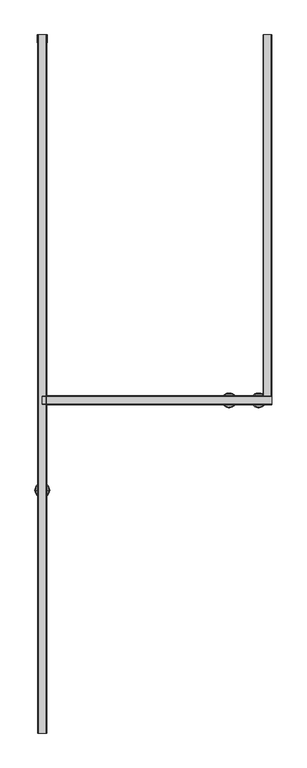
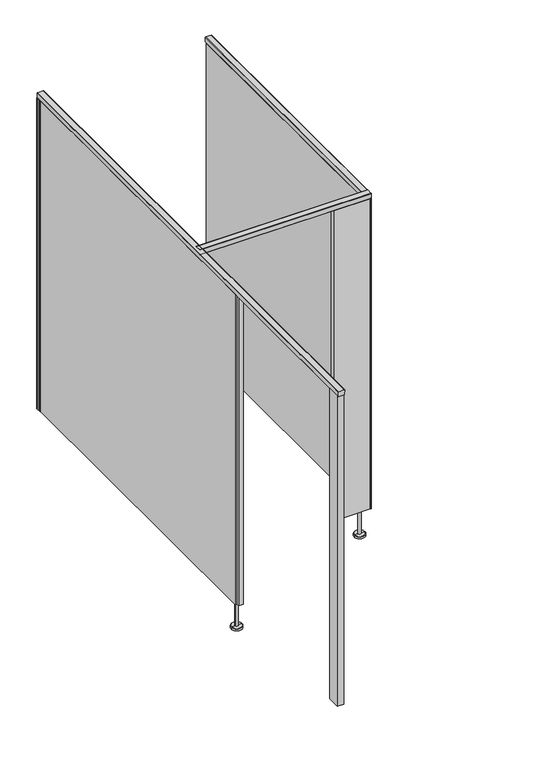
"""IFC4 building model written with IfcOpenShell, lengths in millimetres: proxy geometry, Partition_EuroStyle-Bradley_Corp-ADA_Alcove_1StandardStall-LOFT : Partition_EuroStyle-Bradley_Corp-ADA_Alcove_1StandardStall-LOFT."""

from ifc_helpers import new_model, si_unit, point, frame, frame_2d, origin, place, context, project, spatial, polyline, circle_curve, trimmed, segment, composite_curve, outline, extrude, source, transform, mapped, element, save
from ifc_brep_helpers import plane_surface, cylinder_surface, revolved_surface, advanced_brep


def specialty_equipment_5ce4a985(model_context):
    return source(origin(), model_context, "Body", "SolidModel", [
        extrude(outline(polyline([(1549.4, -2936.400072), (1549.4, -2862.4032348), (1585.4203251, -2862.4032348), (1585.4203251, -2936.400072), (1549.4, -2936.400072)])), frame((0.0, 0.0, 150.0), z_axis=(0.0, 0.0, 1.0), x_axis=(1.0, 0.0, 0.0)), (0.0, 0.0, 1.0), 1855.0),
        extrude(outline(composite_curve([segment(polyline([(1546.918717, -32.5000002), (1546.4103779, -2.02918)]), True, "CONTINUOUS"), segment(trimmed(circle_curve(frame_2d((1548.4395579, -2.02918)), 2.02918), [point((1546.4103779, -2.02918))], [point((1548.4395579, 0.0))], False, "CARTESIAN"), True, "CONTINUOUS"), segment(polyline([(1548.4395579, 0.0), (1586.3807672, 0.0)]), True, "CONTINUOUS"), segment(trimmed(circle_curve(frame_2d((1586.3807672, -2.02918)), 2.02918), [point((1586.3807672, 0.0))], [point((1588.4099473, -2.02918))], False, "CARTESIAN"), True, "CONTINUOUS"), segment(polyline([(1588.4099473, -2.02918), (1587.9016081, -32.5000002), (1586.4030225, -32.5000002)]), True, "CONTINUOUS"), segment(trimmed(circle_curve(frame_2d((1586.4065899, -31.5009082)), 0.9990984), [point((1586.4030225, -32.5000002))], [point((1585.9329373, -30.6212202))], False, "CARTESIAN"), True, "CONTINUOUS"), segment(polyline([(1585.9329373, -30.6212202), (1586.0540473, -23.3575702)]), True, "CONTINUOUS"), segment(trimmed(circle_curve(frame_2d((1586.5715932, -22.5000551)), 1.0015917), [point((1586.0540473, -23.3575702))], [point((1586.0824961, -21.6260013))], False, "CARTESIAN"), True, "CONTINUOUS"), segment(polyline([(1586.0824961, -21.6260013), (1586.3765475, -4.0)]), True, "CONTINUOUS"), segment(trimmed(circle_curve(frame_2d((1584.3768528, -3.9990939)), 1.9996948), [point((1586.3765475, -4.0))], [point((1584.3278332, -2.0))], True, "CARTESIAN"), True, "CONTINUOUS"), segment(polyline([(1584.3278332, -2.0), (1550.4435342, -2.0)]), True, "CONTINUOUS"), segment(trimmed(circle_curve(frame_2d((1550.4435342, -4.0002204)), 2.0002204), [point((1550.4435342, -2.0))], [point((1548.4433424, -3.9895469))], True, "CARTESIAN"), True, "CONTINUOUS"), segment(polyline([(1548.4433424, -3.9895469), (1548.7373979, -21.6257602)]), True, "CONTINUOUS"), segment(trimmed(circle_curve(frame_2d((1548.248732, -22.5000551)), 1.0015917), [point((1548.7373979, -21.6257602))], [point((1548.7662779, -23.3575702))], False, "CARTESIAN"), True, "CONTINUOUS"), segment(polyline([(1548.7662779, -23.3575702), (1548.8873879, -30.6212202)]), True, "CONTINUOUS"), segment(trimmed(circle_curve(frame_2d((1548.4137352, -31.5009082)), 0.9990984), [point((1548.8873879, -30.6212202))], [point((1548.4173026, -32.5000002))], False, "CARTESIAN"), True, "CONTINUOUS"), segment(polyline([(1548.4173026, -32.5000002), (1546.918717, -32.5000002)]), True, "CONTINUOUS")], self_intersect=False)), frame((0.0, 0.0, 150.0), z_axis=(0.0, 0.0, 1.0), x_axis=(1.0, 0.0, 0.0)), (0.0, 0.0, 1.0), 1855.0),
        extrude(outline(composite_curve([segment(polyline([(2032.9666591, 2499.8203701), (2005.7492965, 2500.2741806)]), True, "CONTINUOUS"), segment(trimmed(circle_curve(frame_2d((2005.762, 2501.0360747)), 0.762), [point((2005.7492965, 2500.2741806))], [point((2005.0, 2501.0360747))], False, "CARTESIAN"), True, "CONTINUOUS"), segment(polyline([(2005.0, 2501.0360747), (2005.0, 2534.5733505)]), True, "CONTINUOUS"), segment(trimmed(circle_curve(frame_2d((2005.79375, 2534.5733505)), 0.79375), [point((2005.0, 2534.5733505))], [point((2005.7805172, 2535.3669902))], False, "CARTESIAN"), True, "CONTINUOUS"), segment(polyline([(2005.7805172, 2535.3669902), (2032.9666591, 2535.8202802)]), True, "CONTINUOUS"), segment(trimmed(circle_curve(frame_2d((2033.0000015, 2533.8205597)), 1.9999985), [point((2032.9666591, 2535.8202802))], [point((2035.0, 2533.8205597))], False, "CARTESIAN"), True, "CONTINUOUS"), segment(polyline([(2035.0, 2533.8205597), (2035.0, 2501.8200907)]), True, "CONTINUOUS"), segment(trimmed(circle_curve(frame_2d((2033.0000015, 2501.8200907)), 1.9999985), [point((2035.0, 2501.8200907))], [point((2032.9666591, 2499.8203701))], False, "CARTESIAN"), True, "CONTINUOUS")], self_intersect=False)), frame((0.0, -1524.0, 0.0), z_axis=(0.0, 1.0, 0.0), x_axis=(0.0, 0.0, 1.0)), (0.0, 0.0, 1.0), 1524.0),
        advanced_brep(
        [(1558.4101629, -1920.8766828, 150.0000008), (1576.4101623, -1920.8766828, 150.0000008), (1576.4101623, -1920.8766828, 12.0000001), (1558.4101629, -1920.8766828, 12.0000001), (1567.4101626, -1920.8766828, 150.0000008), (1536.4101636, -1920.8766828, 0.0), (1598.4101615, -1920.8766828, 0.0), (1567.4101626, -1920.8766828, 0.0), (1536.4101636, -1920.8766828, 10.0000001), (1598.4101615, -1920.8766828, 10.0000001), (1538.4125756, -1920.8766828, 12.0000001), (1596.4077496, -1920.8766828, 12.0000001)],
        [
            (0, 1, circle_curve(frame((1567.4101626, -1920.8766828, 150.0000008), z_axis=(0.0, 0.0, -1.0), x_axis=(1.0, 0.0, 0.0)), 8.9999997)),
            (1, 2),
            (2, 3, circle_curve(frame((1567.4101626, -1920.8766828, 12.0000001), z_axis=(0.0, 0.0, 1.0), x_axis=(1.0, 0.0, 0.0)), 8.9999997)),
            (3, 0),
            (1, 0, circle_curve(frame((1567.4101626, -1920.8766828, 150.0000008), z_axis=(0.0, 0.0, -1.0), x_axis=(1.0, 0.0, 0.0)), 8.9999997)),
            (3, 2, circle_curve(frame((1567.4101626, -1920.8766828, 12.0000001), z_axis=(0.0, 0.0, 1.0), x_axis=(1.0, 0.0, 0.0)), 8.9999997)),
            (4, 1),
            (0, 4),
            (5, 6, circle_curve(frame((1567.4101626, -1920.8766828, 0.0), z_axis=(0.0, 0.0, -1.0), x_axis=(1.0, 0.0, 0.0)), 30.9999989)),
            (6, 7),
            (7, 5),
            (6, 5, circle_curve(frame((1567.4101626, -1920.8766828, 0.0), z_axis=(0.0, 0.0, -1.0), x_axis=(1.0, 0.0, 0.0)), 30.9999989)),
            (8, 9, circle_curve(frame((1567.4101626, -1920.8766828, 10.0000001), z_axis=(0.0, 0.0, -1.0), x_axis=(1.0, 0.0, 0.0)), 30.9999989)),
            (9, 6),
            (5, 8),
            (9, 8, circle_curve(frame((1567.4101626, -1920.8766828, 10.0000001), z_axis=(0.0, 0.0, -1.0), x_axis=(1.0, 0.0, 0.0)), 30.9999989)),
            (10, 11, circle_curve(frame((1567.4101626, -1920.8766828, 12.0000001), z_axis=(0.0, 0.0, -1.0), x_axis=(1.0, 0.0, 0.0)), 28.997587)),
            (11, 9),
            (8, 10),
            (11, 10, circle_curve(frame((1567.4101626, -1920.8766828, 12.0000001), z_axis=(0.0, 0.0, -1.0), x_axis=(1.0, 0.0, 0.0)), 28.997587)),
            (2, 11),
            (10, 3),
        ],
        [
            cylinder_surface(frame((1567.4101626, -1920.8766828, 0.0), z_axis=(0.0, 0.0, 1.0), x_axis=(1.0, 0.0, 0.0)), 8.9999997),
            plane_surface(frame((1567.4101626, -1920.8766828, 150.0000008), z_axis=(0.0, 0.0, 1.0), x_axis=(1.0, 0.0, 0.0))),
            plane_surface(frame((1567.4101626, -1920.8766828, 0.0), z_axis=(0.0, 0.0, -1.0), x_axis=(1.0, 0.0, 0.0))),
            cylinder_surface(frame((1567.4101626, -1920.8766828, 0.0), z_axis=(0.0, 0.0, 1.0), x_axis=(1.0, 0.0, 0.0)), 30.9999989),
            revolved_surface(polyline([(1598.4101615, -1920.8766828, 10.0000001), (1596.4077496, -1920.8766828, 12.0000001)]), (1567.4101626, -1920.8766828, 0.0), (0.0, 0.0, 1.0)),
            plane_surface(frame((1567.4101626, -1920.8766828, 12.0000001), z_axis=(0.0, 0.0, 1.0), x_axis=(1.0, 0.0, 0.0))),
        ],
        [
            (0, [[1, 2, 3, 4]]),
            (0, [[5, -4, 6, -2]]),
            (1, [[7, -1, 8]]),
            (1, [[-8, -5, -7]]),
            (2, [[9, 10, 11]]),
            (2, [[12, -11, -10]]),
            (3, [[13, 14, -9, 15]]),
            (3, [[16, -15, -12, -14]]),
            (4, [[17, 18, -13, 19]]),
            (4, [[20, -19, -16, -18]]),
            (5, [[-3, 21, -17, 22]]),
            (5, [[-6, -22, -20, -21]]),
        ],
    ),
        extrude(outline(composite_curve([segment(polyline([(-1523.9996998, 2032.9666591), (-1524.4535103, 2005.7492965)]), True, "CONTINUOUS"), segment(trimmed(circle_curve(frame_2d((-1525.2154044, 2005.762)), 0.762), [point((-1524.4535103, 2005.7492965))], [point((-1525.2154044, 2005.0))], False, "CARTESIAN"), True, "CONTINUOUS"), segment(polyline([(-1525.2154044, 2005.0), (-1558.7526802, 2005.0)]), True, "CONTINUOUS"), segment(trimmed(circle_curve(frame_2d((-1558.7526802, 2005.79375)), 0.79375), [point((-1558.7526802, 2005.0))], [point((-1559.5463199, 2005.7805172))], False, "CARTESIAN"), True, "CONTINUOUS"), segment(polyline([(-1559.5463199, 2005.7805172), (-1559.9996099, 2032.9666591)]), True, "CONTINUOUS"), segment(trimmed(circle_curve(frame_2d((-1557.9998894, 2033.0000015)), 1.9999985), [point((-1559.9996099, 2032.9666591))], [point((-1557.9998894, 2035.0))], False, "CARTESIAN"), True, "CONTINUOUS"), segment(polyline([(-1557.9998894, 2035.0), (-1525.9994204, 2035.0)]), True, "CONTINUOUS"), segment(trimmed(circle_curve(frame_2d((-1525.9994204, 2033.0000015)), 1.9999985), [point((-1525.9994204, 2035.0))], [point((-1523.9996998, 2032.9666591))], False, "CARTESIAN"), True, "CONTINUOUS")], self_intersect=False)), frame((1567.4101626, 0.0, 0.0), z_axis=(1.0, 0.0, 0.0), x_axis=(0.0, 1.0, 0.0)), (0.0, 0.0, 1.0), 968.4101626),
        extrude(outline(composite_curve([segment(polyline([(2032.9666591, 1549.4102076), (2005.7492965, 1549.8640181)]), True, "CONTINUOUS"), segment(trimmed(circle_curve(frame_2d((2005.762, 1550.6259122)), 0.762), [point((2005.7492965, 1549.8640181))], [point((2005.0, 1550.6259122))], False, "CARTESIAN"), True, "CONTINUOUS"), segment(polyline([(2005.0, 1550.6259122), (2005.0, 1584.163188)]), True, "CONTINUOUS"), segment(trimmed(circle_curve(frame_2d((2005.79375, 1584.163188)), 0.79375), [point((2005.0, 1584.163188))], [point((2005.7805172, 1584.9568277))], False, "CARTESIAN"), True, "CONTINUOUS"), segment(polyline([(2005.7805172, 1584.9568277), (2032.9666591, 1585.4101176)]), True, "CONTINUOUS"), segment(trimmed(circle_curve(frame_2d((2033.0000015, 1583.4103971)), 1.9999985), [point((2032.9666591, 1585.4101176))], [point((2035.0, 1583.4103971))], False, "CARTESIAN"), True, "CONTINUOUS"), segment(polyline([(2035.0, 1583.4103971), (2035.0, 1551.4099281)]), True, "CONTINUOUS"), segment(trimmed(circle_curve(frame_2d((2033.0000015, 1551.4099281)), 1.9999985), [point((2035.0, 1551.4099281))], [point((2032.9666591, 1549.4102076))], False, "CARTESIAN"), True, "CONTINUOUS")], self_intersect=False)), frame((0.0, -2946.4, 0.0), z_axis=(0.0, 1.0, 0.0), x_axis=(0.0, 0.0, 1.0)), (0.0, 0.0, 1.0), 2946.4),
        advanced_brep(
        [(2471.7703255, -1541.9996549, 150.0000008), (2489.7703248, -1541.9996549, 150.0000008), (2489.7703248, -1541.9996549, 12.0000001), (2471.7703255, -1541.9996549, 12.0000001), (2480.7703251, -1541.9996549, 150.0000008), (2449.7703262, -1541.9996549, 0.0), (2511.7703241, -1541.9996549, 0.0), (2480.7703251, -1541.9996549, 0.0), (2449.7703262, -1541.9996549, 10.0000001), (2511.7703241, -1541.9996549, 10.0000001), (2451.7727381, -1541.9996549, 12.0000001), (2509.7679122, -1541.9996549, 12.0000001)],
        [
            (0, 1, circle_curve(frame((2480.7703251, -1541.9996549, 150.0000008), z_axis=(0.0, 0.0, -1.0), x_axis=(1.0, 0.0, 0.0)), 8.9999997)),
            (1, 2),
            (2, 3, circle_curve(frame((2480.7703251, -1541.9996549, 12.0000001), z_axis=(0.0, 0.0, 1.0), x_axis=(1.0, 0.0, 0.0)), 8.9999997)),
            (3, 0),
            (1, 0, circle_curve(frame((2480.7703251, -1541.9996549, 150.0000008), z_axis=(0.0, 0.0, -1.0), x_axis=(1.0, 0.0, 0.0)), 8.9999997)),
            (3, 2, circle_curve(frame((2480.7703251, -1541.9996549, 12.0000001), z_axis=(0.0, 0.0, 1.0), x_axis=(1.0, 0.0, 0.0)), 8.9999997)),
            (4, 1),
            (0, 4),
            (5, 6, circle_curve(frame((2480.7703251, -1541.9996549, 0.0), z_axis=(0.0, 0.0, -1.0), x_axis=(1.0, 0.0, 0.0)), 30.9999989)),
            (6, 7),
            (7, 5),
            (6, 5, circle_curve(frame((2480.7703251, -1541.9996549, 0.0), z_axis=(0.0, 0.0, -1.0), x_axis=(1.0, 0.0, 0.0)), 30.9999989)),
            (8, 9, circle_curve(frame((2480.7703251, -1541.9996549, 10.0000001), z_axis=(0.0, 0.0, -1.0), x_axis=(1.0, 0.0, 0.0)), 30.9999989)),
            (9, 6),
            (5, 8),
            (9, 8, circle_curve(frame((2480.7703251, -1541.9996549, 10.0000001), z_axis=(0.0, 0.0, -1.0), x_axis=(1.0, 0.0, 0.0)), 30.9999989)),
            (10, 11, circle_curve(frame((2480.7703251, -1541.9996549, 12.0000001), z_axis=(0.0, 0.0, -1.0), x_axis=(1.0, 0.0, 0.0)), 28.997587)),
            (11, 9),
            (8, 10),
            (11, 10, circle_curve(frame((2480.7703251, -1541.9996549, 12.0000001), z_axis=(0.0, 0.0, -1.0), x_axis=(1.0, 0.0, 0.0)), 28.997587)),
            (2, 11),
            (10, 3),
        ],
        [
            cylinder_surface(frame((2480.7703251, -1541.9996549, 0.0), z_axis=(0.0, 0.0, 1.0), x_axis=(1.0, 0.0, 0.0)), 8.9999997),
            plane_surface(frame((2480.7703251, -1541.9996549, 150.0000008), z_axis=(0.0, 0.0, 1.0), x_axis=(1.0, 0.0, 0.0))),
            plane_surface(frame((2480.7703251, -1541.9996549, 0.0), z_axis=(0.0, 0.0, -1.0), x_axis=(1.0, 0.0, 0.0))),
            cylinder_surface(frame((2480.7703251, -1541.9996549, 0.0), z_axis=(0.0, 0.0, 1.0), x_axis=(1.0, 0.0, 0.0)), 30.9999989),
            revolved_surface(polyline([(2511.7703241, -1541.9996549, 10.0000001), (2509.7679122, -1541.9996549, 12.0000001)]), (2480.7703251, -1541.9996549, 0.0), (0.0, 0.0, 1.0)),
            plane_surface(frame((2480.7703251, -1541.9996549, 12.0000001), z_axis=(0.0, 0.0, 1.0), x_axis=(1.0, 0.0, 0.0))),
        ],
        [
            (0, [[1, 2, 3, 4]]),
            (0, [[5, -4, 6, -2]]),
            (1, [[7, -1, 8]]),
            (1, [[-8, -5, -7]]),
            (2, [[9, 10, 11]]),
            (2, [[12, -11, -10]]),
            (3, [[13, 14, -9, 15]]),
            (3, [[16, -15, -12, -14]]),
            (4, [[17, 18, -13, 19]]),
            (4, [[20, -19, -16, -18]]),
            (5, [[-3, 21, -17, 22]]),
            (5, [[-6, -22, -20, -21]]),
        ],
    ),
        advanced_brep(
        [(2347.4453255, -1541.9996549, 150.0000008), (2365.4453248, -1541.9996549, 150.0000008), (2365.4453248, -1541.9996549, 12.0000001), (2347.4453255, -1541.9996549, 12.0000001), (2356.4453251, -1541.9996549, 150.0000008), (2325.4453262, -1541.9996549, 0.0), (2387.4453241, -1541.9996549, 0.0), (2356.4453251, -1541.9996549, 0.0), (2325.4453262, -1541.9996549, 10.0000001), (2387.4453241, -1541.9996549, 10.0000001), (2327.4477381, -1541.9996549, 12.0000001), (2385.4429122, -1541.9996549, 12.0000001)],
        [
            (0, 1, circle_curve(frame((2356.4453251, -1541.9996549, 150.0000008), z_axis=(0.0, 0.0, -1.0), x_axis=(1.0, 0.0, 0.0)), 8.9999997)),
            (1, 2),
            (2, 3, circle_curve(frame((2356.4453251, -1541.9996549, 12.0000001), z_axis=(0.0, 0.0, 1.0), x_axis=(1.0, 0.0, 0.0)), 8.9999997)),
            (3, 0),
            (1, 0, circle_curve(frame((2356.4453251, -1541.9996549, 150.0000008), z_axis=(0.0, 0.0, -1.0), x_axis=(1.0, 0.0, 0.0)), 8.9999997)),
            (3, 2, circle_curve(frame((2356.4453251, -1541.9996549, 12.0000001), z_axis=(0.0, 0.0, 1.0), x_axis=(1.0, 0.0, 0.0)), 8.9999997)),
            (4, 1),
            (0, 4),
            (5, 6, circle_curve(frame((2356.4453251, -1541.9996549, 0.0), z_axis=(0.0, 0.0, -1.0), x_axis=(1.0, 0.0, 0.0)), 30.9999989)),
            (6, 7),
            (7, 5),
            (6, 5, circle_curve(frame((2356.4453251, -1541.9996549, 0.0), z_axis=(0.0, 0.0, -1.0), x_axis=(1.0, 0.0, 0.0)), 30.9999989)),
            (8, 9, circle_curve(frame((2356.4453251, -1541.9996549, 10.0000001), z_axis=(0.0, 0.0, -1.0), x_axis=(1.0, 0.0, 0.0)), 30.9999989)),
            (9, 6),
            (5, 8),
            (9, 8, circle_curve(frame((2356.4453251, -1541.9996549, 10.0000001), z_axis=(0.0, 0.0, -1.0), x_axis=(1.0, 0.0, 0.0)), 30.9999989)),
            (10, 11, circle_curve(frame((2356.4453251, -1541.9996549, 12.0000001), z_axis=(0.0, 0.0, -1.0), x_axis=(1.0, 0.0, 0.0)), 28.997587)),
            (11, 9),
            (8, 10),
            (11, 10, circle_curve(frame((2356.4453251, -1541.9996549, 12.0000001), z_axis=(0.0, 0.0, -1.0), x_axis=(1.0, 0.0, 0.0)), 28.997587)),
            (2, 11),
            (10, 3),
        ],
        [
            cylinder_surface(frame((2356.4453251, -1541.9996549, 0.0), z_axis=(0.0, 0.0, 1.0), x_axis=(1.0, 0.0, 0.0)), 8.9999997),
            plane_surface(frame((2356.4453251, -1541.9996549, 150.0000008), z_axis=(0.0, 0.0, 1.0), x_axis=(1.0, 0.0, 0.0))),
            plane_surface(frame((2356.4453251, -1541.9996549, 0.0), z_axis=(0.0, 0.0, -1.0), x_axis=(1.0, 0.0, 0.0))),
            cylinder_surface(frame((2356.4453251, -1541.9996549, 0.0), z_axis=(0.0, 0.0, 1.0), x_axis=(1.0, 0.0, 0.0)), 30.9999989),
            revolved_surface(polyline([(2387.4453241, -1541.9996549, 10.0000001), (2385.4429122, -1541.9996549, 12.0000001)]), (2356.4453251, -1541.9996549, 0.0), (0.0, 0.0, 1.0)),
            plane_surface(frame((2356.4453251, -1541.9996549, 12.0000001), z_axis=(0.0, 0.0, 1.0), x_axis=(1.0, 0.0, 0.0))),
        ],
        [
            (0, [[1, 2, 3, 4]]),
            (0, [[5, -4, 6, -2]]),
            (1, [[7, -1, 8]]),
            (1, [[-8, -5, -7]]),
            (2, [[9, 10, 11]]),
            (2, [[12, -11, -10]]),
            (3, [[13, 14, -9, 15]]),
            (3, [[16, -15, -12, -14]]),
            (4, [[17, 18, -13, 19]]),
            (4, [[20, -19, -16, -18]]),
            (5, [[-3, 21, -17, 22]]),
            (5, [[-6, -22, -20, -21]]),
        ],
    ),
        extrude(outline(polyline([(2535.8203251, -1555.2473174), (2535.8203251, -1559.9996099), (2531.0578251, -1559.9996099), (2531.0578251, -1555.2473174), (2535.8203251, -1555.2473174)])), frame((0.0, 0.0, 150.0), z_axis=(0.0, 0.0, 1.0), x_axis=(1.0, 0.0, 0.0)), (0.0, 0.0, 1.0), 1855.0),
        extrude(outline(polyline([(2324.5201766, -1534.6098174), (2334.9305201, -1534.6098174), (2334.9305201, -1524.0), (2499.8105077, -1524.0), (2531.0578251, -1555.2473174), (2531.0578251, -1559.9996549), (2324.5201766, -1559.9996549), (2324.5201766, -1534.6098174)])), frame((0.0, 0.0, 150.0), z_axis=(0.0, 0.0, 1.0), x_axis=(1.0, 0.0, 0.0)), (0.0, 0.0, 1.0), 1855.0),
        extrude(outline(polyline([(2499.8203251, -1524.0098174), (2499.8203251, -9.9993891), (2535.8203251, -9.9993891), (2535.8203251, -1555.2473174), (2531.0578251, -1555.2473174), (2499.8203251, -1524.0098174)])), frame((0.0, 0.0, 150.0), z_axis=(0.0, 0.0, 1.0), x_axis=(1.0, 0.0, 0.0)), (0.0, 0.0, 1.0), 1855.0),
        extrude(outline(polyline([(1549.4, -1938.4920045), (1549.4, -9.9993891), (1585.4203251, -9.9993891), (1585.4203251, -1952.5791451), (1560.4056866, -1952.5791451), (1560.4056866, -1938.4920045), (1549.4, -1938.4920045)])), frame((0.0, 0.0, 150.0), z_axis=(0.0, 0.0, 1.0), x_axis=(1.0, 0.0, 0.0)), (0.0, 0.0, 1.0), 1855.0),
    ])


if __name__ == "__main__":
    model = new_model("IFC4")
    model_context = context("Model", 3, world=origin())
    ifc_project = project(units=[si_unit("LENGTHUNIT", "METRE", prefix="MILLI")], contexts=[model_context])
    site = spatial("IfcSite", under=ifc_project)
    building = spatial("IfcBuilding", under=site)
    placement = place(None, origin())
    specialty_equipment_shape = specialty_equipment_5ce4a985(model_context)
    element("IfcBuildingElementProxy", 1, Name="Partition_EuroStyle-Bradley_Corp-ADA_Alcove_1StandardStall-LOFT : Partition_EuroStyle-Bradley_Corp-ADA_Alcove_1StandardStall-LOFT", ObjectType="Partition_EuroStyle-Bradley_Corp-ADA_Alcove_1StandardStall-LOFT : Partition_EuroStyle-Bradley_Corp-ADA_Alcove_1StandardStall-LOFT", at=placement, inside=building, context=model_context, shape_type="MappedRepresentation", body=[
        mapped(specialty_equipment_shape, transform((0.0, 0.0, 0.0), x_axis=(1.0, 0.0, 0.0), y_axis=(0.0, 1.0, 0.0), z_axis=(0.0, 0.0, 1.0))),
    ])
    save(model, "model.ifc")
